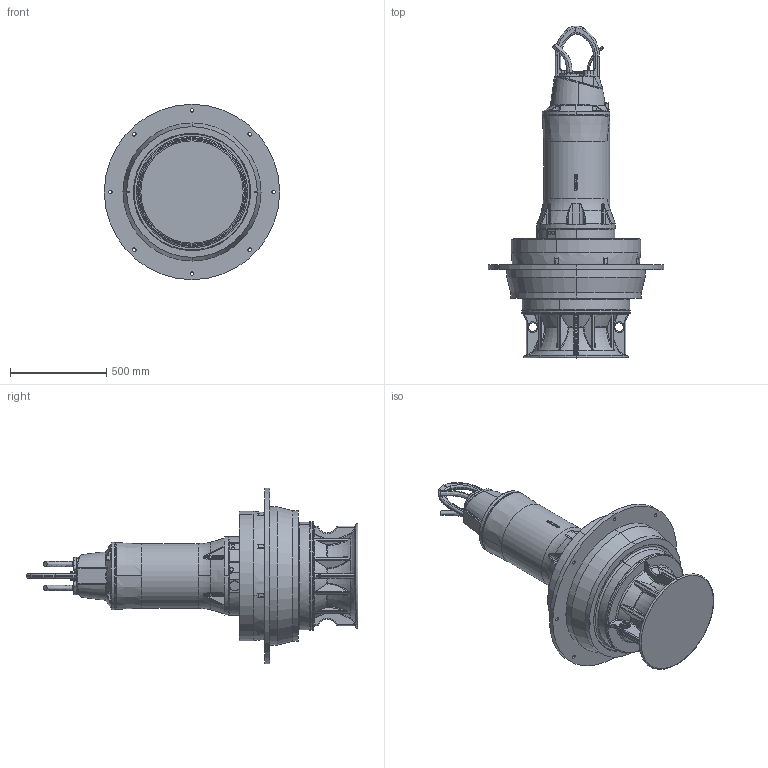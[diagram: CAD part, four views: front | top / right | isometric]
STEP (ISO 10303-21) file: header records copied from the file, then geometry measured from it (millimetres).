
FILE_DESCRIPTION (( 'STEP AP214' ), '1' );
FILE_NAME ('PE4_AFLX0700_FU_A_NG2.STEP', '2017-04-11T05:09:17', ( '' ), ( '' ), 'SwSTEP 2.0', 'SolidWorks 2017', '' );
FILE_SCHEMA (( 'AUTOMOTIVE_DESIGN' ));
Length unit declared in the file: millimetre
Products named in the file (1): PE4_AFLX0700_FU_A_NG2
Bounding box: 913 x 1728.7 x 913 mm (x, y, z)
Volume: 232859301.8 mm3; surface area: 4712285.3 mm2
Topology: 4 solids, 4 shells, 1448 faces, 3570 edges, 2123 vertices
Faces by surface type: bspline 585, cylinder 328, plane 261, torus 158, cone 100, sphere 16
Entity records: 151880 total; most frequent: CARTESIAN_POINT 106450, ORIENTED_EDGE 7056, DIRECTION 4981, EDGE_CURVE 3528, AXIS2_PLACEMENT_3D 2127, VERTEX_POINT 2123, EDGE_LOOP 1529, UNCERTAINTY_MEASURE_WITH_UNIT 1454
